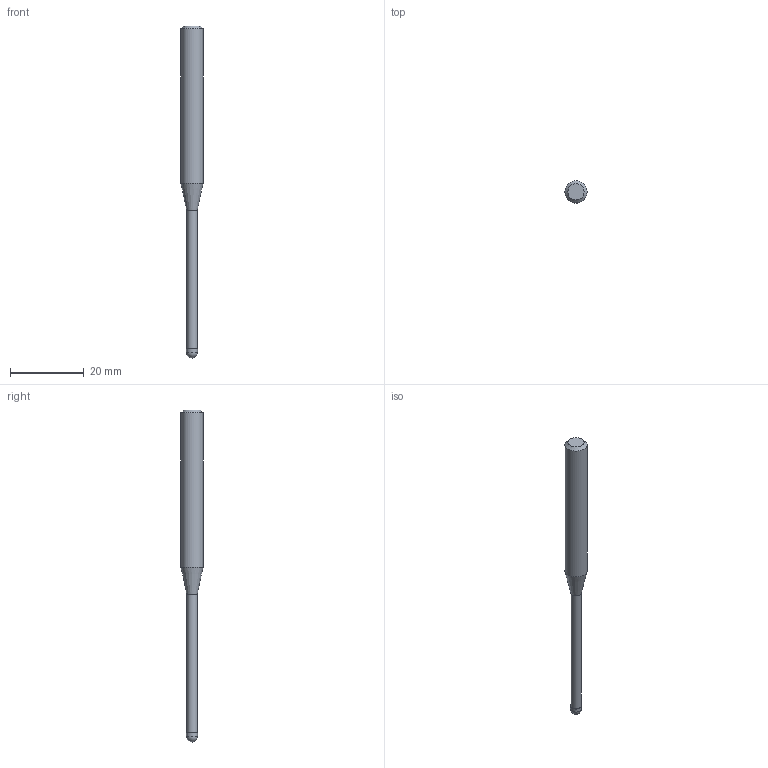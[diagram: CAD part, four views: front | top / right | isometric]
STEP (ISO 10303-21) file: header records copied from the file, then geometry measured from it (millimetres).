
FILE_DESCRIPTION((''),'2;1');
FILE_NAME('C:\Users\nsx150\AppData\Local\Temp\Mastercam 2021\ARV7HD45SN\TEMP.step','2023-06-13T16:38:39',(''),(''),'STEP Write','Mastercam 2021 ... CNC Software, Inc.','');
FILE_SCHEMA(('AUTOMOTIVE_DESIGN'));
Length unit declared in the file: millimetre
Products named in the file (1): None
Bounding box: 6 x 6 x 90 mm (x, y, z)
Volume: 1570.8 mm3; surface area: 1299.5 mm2
Topology: 2 solids, 2 shells, 9 faces, 14 edges, 8 vertices
Faces by surface type: plane 3, cylinder 3, cone 2, sphere 1
Full cylindrical faces by diameter (mm): 2.85 x1, 3 x1, 6 x1
Entity records: 211 total; most frequent: DIRECTION 36, CARTESIAN_POINT 25, AXIS2_PLACEMENT_3D 18, ORIENTED_EDGE 14, EDGE_LOOP 14, STYLED_ITEM 12, ADVANCED_FACE 9, FACE_BOUND 8
